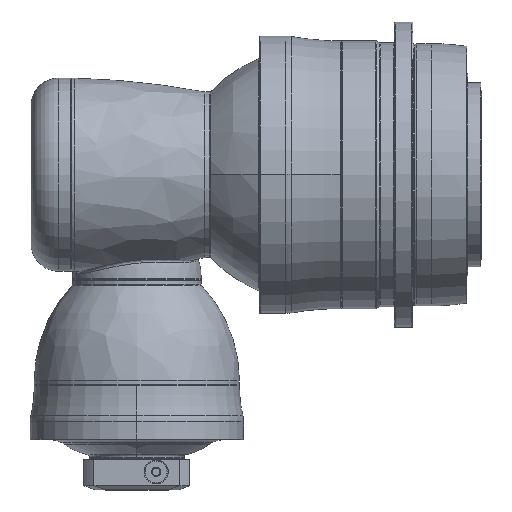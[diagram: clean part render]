
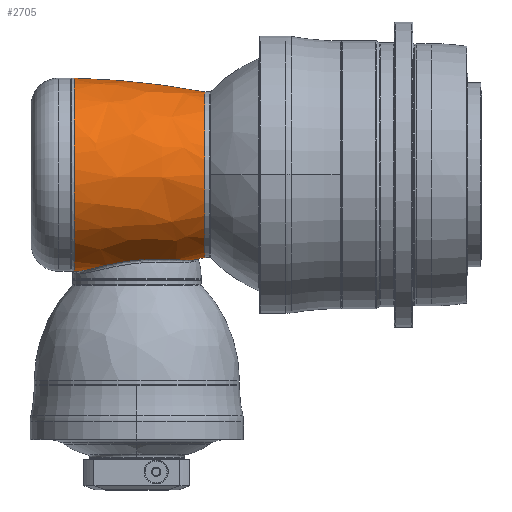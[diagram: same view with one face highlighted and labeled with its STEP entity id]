
A CAD part, top view. The second image highlights one B-rep face of the part: STEP entity #2705.
In plain terms, the highlighted free-form (B-spline) face has degree [3, 3] with [7, 4] control points.
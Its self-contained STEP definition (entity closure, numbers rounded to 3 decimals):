
#344=CARTESIAN_POINT('',(-91.246,794.7,
0.));
#345=DIRECTION('',(0.,0.,-1.));
#346=DIRECTION('',(0.184,-0.983,0.));
#347=AXIS2_PLACEMENT_3D('',#344,#345,#346);
#354=CARTESIAN_POINT('',(-91.246,-794.7,
0.));
#355=DIRECTION('',(0.,0.,1.));
#356=DIRECTION('',(0.184,0.983,0.));
#357=AXIS2_PLACEMENT_3D('',#354,#355,#356);
#498=CARTESIAN_POINT('',(-68.,0.,0.));
#499=DIRECTION('',(1.,0.,0.));
#500=DIRECTION('',(0.,1.,0.));
#501=AXIS2_PLACEMENT_3D('',#498,#499,#500);
#578=CARTESIAN_POINT('',(-68.,-104.809,
-6.332));
#579=CARTESIAN_POINT('',(-67.699,-104.853,
-5.469));
#580=CARTESIAN_POINT('',(-67.058,-104.919,
-3.747));
#581=CARTESIAN_POINT('',(-65.979,-104.949,
-1.182));
#582=CARTESIAN_POINT('',(-64.779,-104.913,1.361));
#583=CARTESIAN_POINT('',(-63.46,-104.81,3.876));
#584=CARTESIAN_POINT('',(-62.018,-104.643,6.358));
#585=CARTESIAN_POINT('',(-60.454,-104.413,8.8));
#586=CARTESIAN_POINT('',(-58.767,-104.123,11.196));
#587=CARTESIAN_POINT('',(-56.955,-103.777,13.54));
#588=CARTESIAN_POINT('',(-55.021,-103.376,15.824));
#589=CARTESIAN_POINT('',(-52.965,-102.926,18.04));
#590=CARTESIAN_POINT('',(-50.789,-102.43,20.179));
#591=CARTESIAN_POINT('',(-48.495,-101.894,22.235));
#592=CARTESIAN_POINT('',(-46.086,-101.324,24.2));
#593=CARTESIAN_POINT('',(-43.566,-100.725,26.067));
#594=CARTESIAN_POINT('',(-40.936,-100.103,27.83));
#595=CARTESIAN_POINT('',(-38.211,-99.467,29.477));
#596=CARTESIAN_POINT('',(-35.393,-98.822,31.003));
#597=CARTESIAN_POINT('',(-32.49,-98.176,32.403));
#598=CARTESIAN_POINT('',(-29.509,-97.536,33.674));
#599=CARTESIAN_POINT('',(-26.456,-96.907,34.81));
#600=CARTESIAN_POINT('',(-23.342,-96.297,35.808));
#601=CARTESIAN_POINT('',(-20.164,-95.709,36.668));
#602=CARTESIAN_POINT('',(-16.952,-95.152,37.381));
#603=CARTESIAN_POINT('',(-13.718,-94.632,37.948));
#604=CARTESIAN_POINT('',(-10.469,-94.152,38.369));
#605=CARTESIAN_POINT('',(-7.204,-93.715,38.644));
#606=CARTESIAN_POINT('',(-3.926,-93.322,38.774));
#607=CARTESIAN_POINT('',(-0.635,-92.973,
38.76));
#608=CARTESIAN_POINT('',(2.671,-92.67,38.602));
#609=CARTESIAN_POINT('',(5.955,-92.416,38.3));
#610=CARTESIAN_POINT('',(9.212,-92.21,37.857));
#611=CARTESIAN_POINT('',(12.433,-92.049,37.276));
#612=CARTESIAN_POINT('',(15.613,-91.933,36.561));
#613=CARTESIAN_POINT('',(18.745,-91.859,35.713));
#614=CARTESIAN_POINT('',(21.823,-91.822,34.735));
#615=CARTESIAN_POINT('',(24.839,-91.821,33.632));
#616=CARTESIAN_POINT('',(27.789,-91.849,32.406));
#617=CARTESIAN_POINT('',(30.666,-91.903,31.061));
#618=CARTESIAN_POINT('',(33.465,-91.977,29.6));
#619=CARTESIAN_POINT('',(36.182,-92.068,28.028));
#620=CARTESIAN_POINT('',(38.811,-92.168,26.348));
#621=CARTESIAN_POINT('',(41.351,-92.273,24.562));
#622=CARTESIAN_POINT('',(43.795,-92.376,22.676));
#623=CARTESIAN_POINT('',(46.137,-92.473,20.696));
#624=CARTESIAN_POINT('',(48.374,-92.557,18.627));
#625=CARTESIAN_POINT('',(50.502,-92.623,16.474));
#626=CARTESIAN_POINT('',(52.52,-92.666,14.239));
#627=CARTESIAN_POINT('',(54.423,-92.679,11.93));
#628=CARTESIAN_POINT('',(56.208,-92.659,9.553));
#629=CARTESIAN_POINT('',(57.868,-92.599,7.119));
#630=CARTESIAN_POINT('',(59.354,-92.501,4.715));
#631=CARTESIAN_POINT('',(60.681,-92.365,2.348));
#632=CARTESIAN_POINT('',(61.476,-92.248,0.78));
#633=CARTESIAN_POINT('',(61.852,-92.183,
0.));
#635=CARTESIAN_POINT('',(74.,0.,0.));
#636=DIRECTION('',(1.,0.,0.));
#637=DIRECTION('',(0.,1.,0.));
#638=AXIS2_PLACEMENT_3D('',#635,#636,#637);
#1447=CARTESIAN_POINT('',(74.,90.,0.));
#1448=CARTESIAN_POINT('',(-68.,105.,0.));
#1449=VERTEX_POINT('',#1447);
#1450=VERTEX_POINT('',#1448);
#1451=CARTESIAN_POINT('',(74.,-90.,0.));
#1452=VERTEX_POINT('',#1451);
#1504=VERTEX_POINT('',#578);
#1505=VERTEX_POINT('',#633);
#2668=CARTESIAN_POINT('',(-70.858,104.854,
-6.724));
#2669=CARTESIAN_POINT('',(-21.262,103.732,
-6.652));
#2670=CARTESIAN_POINT('',(28.073,98.532,-6.318));
#2671=CARTESIAN_POINT('',(76.809,89.287,-5.726));
#2672=CARTESIAN_POINT('',(-70.858,109.093,59.389));
#2673=CARTESIAN_POINT('',(-21.262,107.927,58.753));
#2674=CARTESIAN_POINT('',(28.073,102.516,55.808));
#2675=CARTESIAN_POINT('',(76.809,92.897,50.572));
#2676=CARTESIAN_POINT('',(-70.858,63.049,107.02));
#2677=CARTESIAN_POINT('',(-21.262,62.374,105.875));
#2678=CARTESIAN_POINT('',(28.073,59.247,100.567));
#2679=CARTESIAN_POINT('',(76.809,53.689,91.132));
#2680=CARTESIAN_POINT('',(-70.858,-3.169,
105.021));
#2681=CARTESIAN_POINT('',(-21.262,-3.136,
103.898));
#2682=CARTESIAN_POINT('',(28.073,-2.978,98.689));
#2683=CARTESIAN_POINT('',(76.809,-2.699,89.43));
#2684=CARTESIAN_POINT('',(-70.858,-69.388,
103.023));
#2685=CARTESIAN_POINT('',(-21.262,-68.645,
101.921));
#2686=CARTESIAN_POINT('',(28.073,-65.204,96.811));
#2687=CARTESIAN_POINT('',(76.809,-59.086,87.728));
#2688=CARTESIAN_POINT('',(-70.858,-112.476,
52.702));
#2689=CARTESIAN_POINT('',(-21.262,-111.273,
52.138));
#2690=CARTESIAN_POINT('',(28.073,-105.694,49.524));
#2691=CARTESIAN_POINT('',(76.809,-95.778,44.878));
#2692=CARTESIAN_POINT('',(-70.858,-104.258,
-13.035));
#2693=CARTESIAN_POINT('',(-21.262,-103.142,
-12.895));
#2694=CARTESIAN_POINT('',(28.073,-97.971,
-12.249));
#2695=CARTESIAN_POINT('',(76.809,-88.779,
-11.099));
#2696=(BOUNDED_SURFACE()B_SPLINE_SURFACE(3,3,((#2668,#2669,#2670,#2671),(#2672,
#2673,#2674,#2675),(#2676,#2677,#2678,#2679),(#2680,#2681,#2682,#2683),(#2684,
#2685,#2686,#2687),(#2688,#2689,#2690,#2691),(#2692,#2693,#2694,#2695)),
.UNSPECIFIED.,.F.,.F.,.F.)B_SPLINE_SURFACE_WITH_KNOTS((4,3,4),(4,4),(0.,1.,
2.),(0.,1.),.UNSPECIFIED.)GEOMETRIC_REPRESENTATION_ITEM()RATIONAL_B_SPLINE_SURFACE(((1.197,1.195,1.195,1.197),(
0.936,0.934,0.934,0.936),(
0.936,0.934,0.934,0.936),(
1.197,1.195,1.195,1.197),(
0.936,0.934,0.934,0.936),(
0.936,0.934,0.934,0.936),(
1.197,1.195,1.195,1.197)))REPRESENTATION_ITEM('')SURFACE());
#2697=ORIENTED_EDGE('',*,*,#2434,.F.);
#2698=ORIENTED_EDGE('',*,*,#2643,.F.);
#2699=ORIENTED_EDGE('',*,*,#2091,.F.);
#2701=ORIENTED_EDGE('',*,*,#2700,.T.);
#2702=ORIENTED_EDGE('',*,*,#2087,.T.);
#2703=EDGE_LOOP('',(#2697,#2698,#2699,#2701,#2702));
#2704=FACE_OUTER_BOUND('',#2703,.F.);
#2705=ADVANCED_FACE('',(#2704),#2696,.T.);
#348=CIRCLE('',#347,900.);
#358=CIRCLE('',#357,900.);
#502=CIRCLE('',#501,105.);
#634=B_SPLINE_CURVE_WITH_KNOTS('',3,(#578,#579,#580,#581,#582,#583,#584,#585,
#586,#587,#588,#589,#590,#591,#592,#593,#594,#595,#596,#597,#598,#599,#600,#601,
#602,#603,#604,#605,#606,#607,#608,#609,#610,#611,#612,#613,#614,#615,#616,#617,
#618,#619,#620,#621,#622,#623,#624,#625,#626,#627,#628,#629,#630,#631,#632,
#633),.UNSPECIFIED.,.F.,.F.,(4,1,1,1,1,1,1,1,1,1,1,1,1,1,1,1,1,1,1,1,1,1,1,1,1,
1,1,1,1,1,1,1,1,1,1,1,1,1,1,1,1,1,1,1,1,1,1,1,1,1,1,1,1,4),(0.,
0.019,0.038,0.057,0.075,
0.094,0.113,0.132,0.151,
0.17,0.189,0.208,0.226,
0.245,0.264,0.283,0.302,
0.321,0.34,0.358,0.377,
0.396,0.415,0.434,0.453,
0.472,0.491,0.509,0.528,
0.547,0.566,0.585,0.604,
0.623,0.642,0.66,0.679,
0.698,0.717,0.736,0.755,
0.774,0.792,0.811,0.83,
0.849,0.868,0.887,0.906,
0.925,0.943,0.962,0.981,1.),
.UNSPECIFIED.);
#639=CIRCLE('',#638,90.);
#2087=EDGE_CURVE('',#1452,#1505,#348,.T.);
#2091=EDGE_CURVE('',#1449,#1450,#358,.T.);
#2434=EDGE_CURVE('',#1504,#1505,#634,.T.);
#2643=EDGE_CURVE('',#1450,#1504,#502,.T.);
#2700=EDGE_CURVE('',#1449,#1452,#639,.T.);
